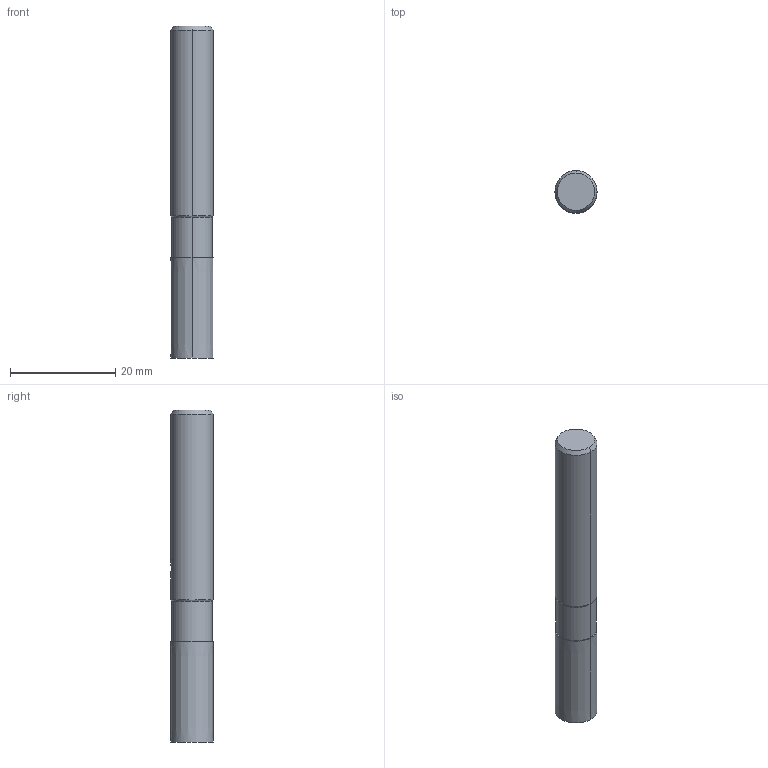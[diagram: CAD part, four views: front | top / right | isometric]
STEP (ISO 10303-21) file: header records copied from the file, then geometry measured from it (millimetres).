
FILE_DESCRIPTION(('no description'),'unknown implementation level');
FILE_NAME('solidAqWx_kL_LRp8JMkRbwmbv_EZw_g_1.STP',' ',('CIMSOURCE GmbH'),('CADClick - KiM GmbH - www.kimweb.de'),'unknown preprocess','ACIS','unknown authorization');
FILE_SCHEMA(('automotive_design'));
Length unit declared in the file: millimetre
Products named in the file (2): NOCUT; CUT
Bounding box: 8 x 8 x 63 mm (x, y, z)
Volume: 3132.8 mm3; surface area: 2262.6 mm2
Topology: 2 solids, 2 shells, 41 faces, 93 edges, 58 vertices
Faces by surface type: cylinder 16, cone 14, plane 11
Entity records: 2500 total; most frequent: CARTESIAN_POINT 426, DIRECTION 211, STYLED_ITEM 194, PRESENTATION_STYLE_ASSIGNMENT 194, COLOUR_RGB 194, ORIENTED_EDGE 186, EDGE_CURVE 93, CURVE_STYLE 93
